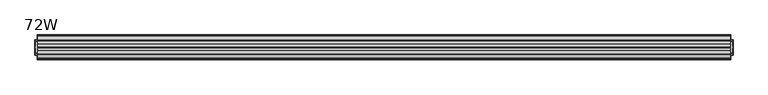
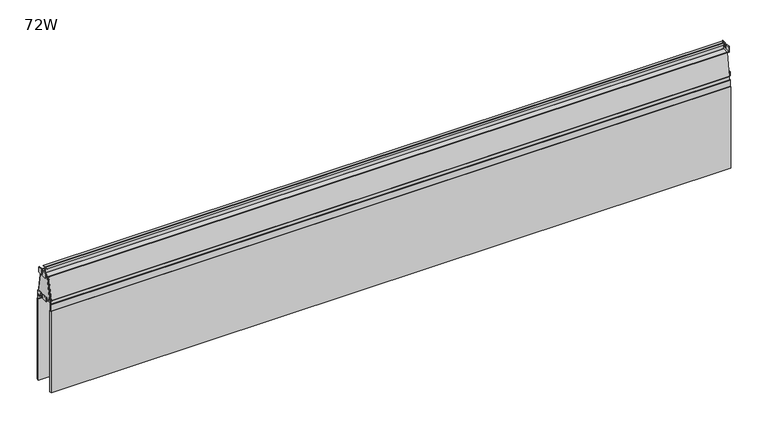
"""IFC4 building model written with IfcOpenShell, lengths in millimetres: furniture geometry, Steelcase Turnstone - Bivi - Accessories - High Sit Bracket with Modesty Panel : 72W."""

from ifc_helpers import new_model, si_unit, point, frame, frame_2d, origin, place, context, project, spatial, polyline, circle_curve, trimmed, segment, composite_curve, outline, extrude, source, transform, mapped, element, save
from ifc_brep_helpers import plane_surface, cylinder_surface, revolved_surface, advanced_brep


def furniture_72w_24902055(model_context):
    return source(origin(), model_context, "Body", "SolidModel", [
        extrude(outline(polyline([(1627.378, -62.4245382), (1631.7973142, -62.4245382), (1631.7973142, -102.4290731), (1627.378, -102.4290731), (1627.378, -62.4245382)])), frame((0.0, 0.0, 971.7621964), z_axis=(0.0, 0.0, 1.0), x_axis=(1.0, 0.0, 0.0)), (0.0, 0.0, 1.0), 2.2606178),
        extrude(outline(polyline([(1627.378, -67.9265279), (1631.7973142, -67.9265279), (1631.7973142, -96.8235489), (1627.378, -96.8235489), (1627.378, -67.9265279)])), frame((0.0, 0.0, 1033.6165755), z_axis=(0.0, 0.0, 1.0), x_axis=(1.0, 0.0, 0.0)), (0.0, 0.0, 1.0), 1.7477706),
        extrude(outline(composite_curve([segment(polyline([(-67.9265279, 1033.6165755), (-96.9270833, 1033.6165755), (-96.9270833, 1047.2712029)]), True, "CONTINUOUS"), segment(trimmed(circle_curve(frame_2d((-95.8530462, 1047.2712029)), 1.0740372), [point((-96.9270833, 1047.2712029))], [point((-95.8530462, 1048.3452401))], False, "CARTESIAN"), True, "CONTINUOUS"), segment(polyline([(-95.8530462, 1048.3452401), (-86.5848166, 1048.3452401)]), True, "CONTINUOUS"), segment(trimmed(circle_curve(frame_2d((-86.5848166, 1047.1882087)), 1.1570313), [point((-86.5848166, 1048.3452401))], [point((-85.4277852, 1047.1882087))], False, "CARTESIAN"), True, "CONTINUOUS"), segment(polyline([(-85.4277852, 1047.1882087), (-85.4277852, 1035.3644915), (-79.443513, 1035.3644915), (-79.443513, 1047.1627838)]), True, "CONTINUOUS"), segment(trimmed(circle_curve(frame_2d((-78.2610567, 1047.1627838)), 1.1824563), [point((-79.443513, 1047.1627838))], [point((-78.2610567, 1048.3452401))], False, "CARTESIAN"), True, "CONTINUOUS"), segment(polyline([(-78.2610567, 1048.3452401), (-68.8135699, 1048.3452401)]), True, "CONTINUOUS"), segment(trimmed(circle_curve(frame_2d((-68.8135699, 1047.4581981)), 0.887042), [point((-68.8135699, 1048.3452401))], [point((-67.9265279, 1047.4581981))], False, "CARTESIAN"), True, "CONTINUOUS"), segment(polyline([(-67.9265279, 1047.4581981), (-67.9265279, 1033.6165755)]), True, "CONTINUOUS")], self_intersect=False)), frame((1631.7973142, 0.0, 0.0), z_axis=(1.0, 0.0, 0.0), x_axis=(0.0, 1.0, 0.0)), (0.0, 0.0, 1.0), 1.4999084),
        extrude(outline(composite_curve([segment(polyline([(-76.0547241, 981.8412323), (-64.233104, 981.8412323)]), True, "CONTINUOUS"), segment(trimmed(circle_curve(frame_2d((-64.233104, 980.0326664)), 1.8085659), [point((-64.233104, 981.8412323))], [point((-62.4245382, 980.0326664))], False, "CARTESIAN"), True, "CONTINUOUS"), segment(polyline([(-62.4245382, 980.0326664), (-62.4245382, 971.7621964), (-82.4398102, 971.7621964), (-102.4290731, 971.7621964), (-102.4290731, 979.8046996)]), True, "CONTINUOUS"), segment(trimmed(circle_curve(frame_2d((-100.3925404, 979.8046996)), 2.0365327), [point((-102.4290731, 979.8046996))], [point((-100.3925404, 981.8412323))], False, "CARTESIAN"), True, "CONTINUOUS"), segment(polyline([(-100.3925404, 981.8412323), (-88.6513232, 981.8412323)]), True, "CONTINUOUS"), segment(trimmed(circle_curve(frame_2d((-88.6513232, 980.0617922)), 1.7794401), [point((-88.6513232, 981.8412323))], [point((-86.8718831, 980.0617922))], False, "CARTESIAN"), True, "CONTINUOUS"), segment(polyline([(-86.8718831, 980.0617922), (-86.8718831, 974.7655741), (-77.9817281, 974.7655741), (-77.9817281, 979.9142284)]), True, "CONTINUOUS"), segment(trimmed(circle_curve(frame_2d((-76.0547241, 979.9142284)), 1.9270039), [point((-77.9817281, 979.9142284))], [point((-76.0547241, 981.8412323))], False, "CARTESIAN"), True, "CONTINUOUS")], self_intersect=False)), frame((1631.7973142, 0.0, 0.0), z_axis=(1.0, 0.0, 0.0), x_axis=(0.0, 1.0, 0.0)), (0.0, 0.0, 1.0), 1.4999084),
        extrude(outline(polyline([(-150.622, -62.4245382), (-150.622, -102.4290731), (-155.0413142, -102.4290731), (-155.0413142, -62.4245382), (-150.622, -62.4245382)])), frame((0.0, 0.0, 971.7621964), z_axis=(0.0, 0.0, 1.0), x_axis=(1.0, 0.0, 0.0)), (0.0, 0.0, 1.0), 2.2606178),
        extrude(outline(polyline([(-150.622, -67.9265279), (-150.622, -96.8235489), (-155.0413142, -96.8235489), (-155.0413142, -67.9265279), (-150.622, -67.9265279)])), frame((0.0, 0.0, 1033.6165755), z_axis=(0.0, 0.0, 1.0), x_axis=(1.0, 0.0, 0.0)), (0.0, 0.0, 1.0), 1.7477706),
        extrude(outline(composite_curve([segment(polyline([(-67.9265279, 1033.6165755), (-96.9270833, 1033.6165755), (-96.9270833, 1047.2712029)]), True, "CONTINUOUS"), segment(trimmed(circle_curve(frame_2d((-95.8530462, 1047.2712029)), 1.0740372), [point((-96.9270833, 1047.2712029))], [point((-95.8530462, 1048.3452401))], False, "CARTESIAN"), True, "CONTINUOUS"), segment(polyline([(-95.8530462, 1048.3452401), (-86.5848166, 1048.3452401)]), True, "CONTINUOUS"), segment(trimmed(circle_curve(frame_2d((-86.5848166, 1047.1882087)), 1.1570313), [point((-86.5848166, 1048.3452401))], [point((-85.4277852, 1047.1882087))], False, "CARTESIAN"), True, "CONTINUOUS"), segment(polyline([(-85.4277852, 1047.1882087), (-85.4277852, 1035.3644915), (-79.443513, 1035.3644915), (-79.443513, 1047.1627838)]), True, "CONTINUOUS"), segment(trimmed(circle_curve(frame_2d((-78.2610567, 1047.1627838)), 1.1824563), [point((-79.443513, 1047.1627838))], [point((-78.2610567, 1048.3452401))], False, "CARTESIAN"), True, "CONTINUOUS"), segment(polyline([(-78.2610567, 1048.3452401), (-68.8135699, 1048.3452401)]), True, "CONTINUOUS"), segment(trimmed(circle_curve(frame_2d((-68.8135699, 1047.4581981)), 0.887042), [point((-68.8135699, 1048.3452401))], [point((-67.9265279, 1047.4581981))], False, "CARTESIAN"), True, "CONTINUOUS"), segment(polyline([(-67.9265279, 1047.4581981), (-67.9265279, 1033.6165755)]), True, "CONTINUOUS")], self_intersect=False)), frame((-156.5412227, 0.0, 0.0), z_axis=(1.0, 0.0, 0.0), x_axis=(0.0, 1.0, 0.0)), (0.0, 0.0, 1.0), 1.4999084),
        extrude(outline(composite_curve([segment(polyline([(-76.0547241, 981.8412323), (-64.233104, 981.8412323)]), True, "CONTINUOUS"), segment(trimmed(circle_curve(frame_2d((-64.233104, 980.0326664)), 1.8085659), [point((-64.233104, 981.8412323))], [point((-62.4245382, 980.0326664))], False, "CARTESIAN"), True, "CONTINUOUS"), segment(polyline([(-62.4245382, 980.0326664), (-62.4245382, 971.7621964), (-82.4398102, 971.7621964), (-102.4290731, 971.7621964), (-102.4290731, 979.8046996)]), True, "CONTINUOUS"), segment(trimmed(circle_curve(frame_2d((-100.3925404, 979.8046996)), 2.0365327), [point((-102.4290731, 979.8046996))], [point((-100.3925404, 981.8412323))], False, "CARTESIAN"), True, "CONTINUOUS"), segment(polyline([(-100.3925404, 981.8412323), (-88.6513232, 981.8412323)]), True, "CONTINUOUS"), segment(trimmed(circle_curve(frame_2d((-88.6513232, 980.0617922)), 1.7794401), [point((-88.6513232, 981.8412323))], [point((-86.8718831, 980.0617922))], False, "CARTESIAN"), True, "CONTINUOUS"), segment(polyline([(-86.8718831, 980.0617922), (-86.8718831, 974.7655741), (-77.9817281, 974.7655741), (-77.9817281, 979.9142284)]), True, "CONTINUOUS"), segment(trimmed(circle_curve(frame_2d((-76.0547241, 979.9142284)), 1.9270039), [point((-77.9817281, 979.9142284))], [point((-76.0547241, 981.8412323))], False, "CARTESIAN"), True, "CONTINUOUS")], self_intersect=False)), frame((-156.5412227, 0.0, 0.0), z_axis=(1.0, 0.0, 0.0), x_axis=(0.0, 1.0, 0.0)), (0.0, 0.0, 1.0), 1.4999084),
        extrude(outline(polyline([(-56.9970023, 971.7621964), (-107.8605404, 971.7621964), (-96.5348092, 1035.3644915), (-68.2124562, 1035.3644915), (-56.9970023, 971.7621964)])), frame((1625.7263308, 0.0, 0.0), z_axis=(1.0, 0.0, 0.0), x_axis=(0.0, 1.0, 0.0)), (0.0, 0.0, 1.0), 1.6516692),
        extrude(outline(polyline([(-56.9970023, 971.7621964), (-107.8605404, 971.7621964), (-96.5348351, 1035.3643461), (-68.2124305, 1035.3643461), (-56.9970023, 971.7621964)])), frame((-150.622, 0.0, 0.0), z_axis=(1.0, 0.0, 0.0), x_axis=(0.0, 1.0, 0.0)), (0.0, 0.0, 1.0), 1.6516692),
        advanced_brep(
        [(1625.7263308, -80.9976272, 1037.2195381), (1625.7263308, -81.5241475, 1037.7460584), (1625.7263308, -81.5241475, 1051.4672481), (1625.7263308, -81.0144007, 1051.9769949), (1625.7263308, -74.8842427, 1051.9769949), (1625.7263308, -74.8842427, 1052.8659668), (1625.7263308, -81.2494337, 1052.8659668), (1625.7263308, -82.4700881, 1051.6453124), (1625.7263308, -83.7221189, 1052.8659668), (1625.7263308, -90.0377005, 1052.8659668), (1625.7263308, -90.0377005, 1051.9769949), (1625.7263308, -83.9075425, 1051.9769949), (1625.7263308, -83.3977957, 1051.4672481), (1625.7263308, -83.3977957, 1037.7460584), (1625.7263308, -83.924316, 1037.2195381), (1625.7263308, -99.0759081, 1037.2195381), (1625.7263308, -100.326089, 1036.1705117), (1625.7263308, -110.7579884, 977.0082706), (1625.7263308, -109.096108, 975.5931057), (1625.7263308, -109.096108, 956.4729406), (1625.7263308, -107.5729451, 956.4729406), (1625.7263308, -107.5729451, 975.5229406), (1625.7263308, -57.2806661, 975.5229406), (1625.7263308, -57.2806661, 956.4729406), (1625.7263308, -55.7575032, 956.4729406), (1625.7263308, -55.7575032, 975.5715007), (1625.7263308, -54.1639548, 977.0082706), (1625.7263308, -64.5958542, 1036.1705117), (1625.7263308, -65.8460351, 1037.2195381), (1625.7263308, -66.0050637, 1036.3263319), (1625.7263308, -65.4476181, 1035.8585795), (1625.7263308, -55.0642662, 976.9716646), (1625.7263308, -55.5332832, 976.4127119), (1625.7263308, -109.38866, 976.4127119), (1625.7263308, -109.857677, 976.9716646), (1625.7263308, -99.4743251, 1035.8585795), (1625.7263308, -98.9168795, 1036.3263319), (1625.7263308, -83.6744208, 1036.3263319), (1625.7263308, -82.5014645, 1037.4992882), (1625.7263308, -81.2971318, 1036.3263319), (-148.9703308, -80.9976272, 1037.2195381), (-148.9703308, -65.8460351, 1037.2195381), (-148.9703308, -64.5958542, 1036.1705117), (-148.9703308, -54.1639548, 977.0082706), (-148.9703308, -55.7575032, 975.5715007), (-148.9703308, -55.7575032, 956.4729406), (-148.9703308, -57.2806661, 956.4729406), (-148.9703308, -57.2806661, 975.5229406), (-148.9703308, -107.5729451, 975.5229406), (-148.9703308, -107.5729451, 956.4729406), (-148.9703308, -109.096108, 956.4729406), (-148.9703308, -109.096108, 975.5931057), (-148.9703308, -110.7579884, 977.0082706), (-148.9703308, -100.326089, 1036.1705117), (-148.9703308, -99.0759081, 1037.2195381), (-148.9703308, -83.924316, 1037.2195381), (-148.9703308, -83.3977957, 1037.7460584), (-148.9703308, -83.3977957, 1051.4672481), (-148.9703308, -83.9075425, 1051.9769949), (-148.9703308, -90.0377005, 1051.9769949), (-148.9703308, -90.0377005, 1052.8659668), (-148.9703308, -83.7221189, 1052.8659668), (-148.9703308, -82.5014645, 1051.6453124), (-148.9703308, -81.2494337, 1052.8659668), (-148.9703308, -74.8842427, 1052.8659668), (-148.9703308, -74.8842427, 1051.9769949), (-148.9703308, -81.0144007, 1051.9769949), (-148.9703308, -81.5241475, 1051.4672481), (-148.9703308, -81.5241475, 1037.7460584), (-148.9703308, -66.0050637, 1036.3263319), (-148.9703308, -81.2971318, 1036.3263319), (-148.9703308, -82.4700881, 1037.4992882), (-148.9703308, -83.6744208, 1036.3263319), (-148.9703308, -98.9168795, 1036.3263319), (-148.9703308, -99.4743251, 1035.8585795), (-148.9703308, -109.857677, 976.9716646), (-148.9703308, -109.38866, 976.4127119), (-148.9703308, -55.5332832, 976.4127119), (-148.9703308, -55.0642662, 976.9716646), (-148.9703308, -65.4476181, 1035.8585795)],
        [
            (0, 1, circle_curve(frame((1625.7263308, -80.9976272, 1037.7460584), z_axis=(-1.0, 0.0, 0.0), x_axis=(0.0, 1.0, 0.0)), 0.5265203)),
            (1, 2),
            (2, 3, circle_curve(frame((1625.7263308, -81.0144007, 1051.4672481), z_axis=(-1.0, 0.0, 0.0), x_axis=(0.0, 1.0, 0.0)), 0.5097468)),
            (3, 4),
            (4, 5),
            (5, 6),
            (6, 7, circle_curve(frame((1625.7263308, -81.2494337, 1051.6453124), z_axis=(1.0, 0.0, 0.0), x_axis=(0.0, 1.0, 0.0)), 1.2206544)),
            (7, 8, circle_curve(frame((1625.7263308, -83.7221189, 1051.6453124), z_axis=(1.0, 0.0, 0.0), x_axis=(0.0, 1.0, 0.0)), 1.2206544)),
            (8, 9),
            (9, 10),
            (10, 11),
            (11, 12, circle_curve(frame((1625.7263308, -83.9075425, 1051.4672481), z_axis=(-1.0, 0.0, 0.0), x_axis=(0.0, 1.0, 0.0)), 0.5097468)),
            (12, 13),
            (13, 14, circle_curve(frame((1625.7263308, -83.924316, 1037.7460584), z_axis=(-1.0, 0.0, 0.0), x_axis=(0.0, 1.0, 0.0)), 0.5265203)),
            (14, 15),
            (15, 16, circle_curve(frame((1625.7263308, -99.0759081, 1035.9500711), z_axis=(1.0, 0.0, 0.0), x_axis=(0.0, 1.0, 0.0)), 1.269467)),
            (16, 17),
            (17, 18, circle_curve(frame((1625.7263308, -109.5116486, 976.7885072), z_axis=(1.0, 0.0, 0.0), x_axis=(0.0, 1.0, 0.0)), 1.2655666)),
            (18, 19),
            (19, 20),
            (20, 21),
            (21, 22),
            (22, 23),
            (23, 24),
            (24, 25),
            (25, 26, circle_curve(frame((1625.7263308, -55.4102946, 976.7885072), z_axis=(1.0, 0.0, 0.0), x_axis=(0.0, 1.0, 0.0)), 1.2655666)),
            (26, 27),
            (27, 28, circle_curve(frame((1625.7263308, -65.8460351, 1035.9500711), z_axis=(1.0, 0.0, 0.0), x_axis=(0.0, 1.0, 0.0)), 1.269467)),
            (28, 0),
            (29, 30, circle_curve(frame((1625.7263308, -66.0050637, 1035.7602868), z_axis=(-1.0, 0.0, 0.0), x_axis=(0.0, 1.0, 0.0)), 0.5660451)),
            (30, 31),
            (31, 32, circle_curve(frame((1625.7263308, -55.5332832, 976.8889643), z_axis=(-1.0, 0.0, 0.0), x_axis=(0.0, 1.0, 0.0)), 0.4762524)),
            (32, 33),
            (33, 34, circle_curve(frame((1625.7263308, -109.38866, 976.8889643), z_axis=(-1.0, 0.0, 0.0), x_axis=(0.0, 1.0, 0.0)), 0.4762524)),
            (34, 35),
            (35, 36, circle_curve(frame((1625.7263308, -98.9168795, 1035.7602868), z_axis=(-1.0, 0.0, 0.0), x_axis=(0.0, 1.0, 0.0)), 0.5660451)),
            (36, 37),
            (37, 38, circle_curve(frame((1625.7263308, -83.6744208, 1037.4992882), z_axis=(1.0, 0.0, 0.0), x_axis=(0.0, 1.0, 0.0)), 1.1729562)),
            (38, 39, circle_curve(frame((1625.7263308, -81.2971318, 1037.4992882), z_axis=(1.0, 0.0, 0.0), x_axis=(0.0, 1.0, 0.0)), 1.1729562)),
            (39, 29),
            (40, 41),
            (41, 42, circle_curve(frame((-148.9703308, -65.8460351, 1035.9500711), z_axis=(-1.0, 0.0, 0.0), x_axis=(0.0, 1.0, 0.0)), 1.269467)),
            (42, 43),
            (43, 44, circle_curve(frame((-148.9703308, -55.4102946, 976.7885072), z_axis=(-1.0, 0.0, 0.0), x_axis=(0.0, 1.0, 0.0)), 1.2655666)),
            (44, 45),
            (45, 46),
            (46, 47),
            (47, 48),
            (48, 49),
            (49, 50),
            (50, 51),
            (51, 52, circle_curve(frame((-148.9703308, -109.5116486, 976.7885072), z_axis=(-1.0, 0.0, 0.0), x_axis=(0.0, 1.0, 0.0)), 1.2655666)),
            (52, 53),
            (53, 54, circle_curve(frame((-148.9703308, -99.0759081, 1035.9500711), z_axis=(-1.0, 0.0, 0.0), x_axis=(0.0, 1.0, 0.0)), 1.269467)),
            (54, 55),
            (55, 56, circle_curve(frame((-148.9703308, -83.924316, 1037.7460584), z_axis=(1.0, 0.0, 0.0), x_axis=(0.0, 1.0, 0.0)), 0.5265203)),
            (56, 57),
            (57, 58, circle_curve(frame((-148.9703308, -83.9075425, 1051.4672481), z_axis=(1.0, 0.0, 0.0), x_axis=(0.0, 1.0, 0.0)), 0.5097468)),
            (58, 59),
            (59, 60),
            (60, 61),
            (61, 62, circle_curve(frame((-148.9703308, -83.7221189, 1051.6453124), z_axis=(-1.0, 0.0, 0.0), x_axis=(0.0, 1.0, 0.0)), 1.2206544)),
            (62, 63, circle_curve(frame((-148.9703308, -81.2494337, 1051.6453124), z_axis=(-1.0, 0.0, 0.0), x_axis=(0.0, 1.0, 0.0)), 1.2206544)),
            (63, 64),
            (64, 65),
            (65, 66),
            (66, 67, circle_curve(frame((-148.9703308, -81.0144007, 1051.4672481), z_axis=(1.0, 0.0, 0.0), x_axis=(0.0, 1.0, 0.0)), 0.5097468)),
            (67, 68),
            (68, 40, circle_curve(frame((-148.9703308, -80.9976272, 1037.7460584), z_axis=(1.0, 0.0, 0.0), x_axis=(0.0, 1.0, 0.0)), 0.5265203)),
            (69, 70),
            (70, 71, circle_curve(frame((-148.9703308, -81.2971318, 1037.4992882), z_axis=(-1.0, 0.0, 0.0), x_axis=(0.0, 1.0, 0.0)), 1.1729562)),
            (71, 72, circle_curve(frame((-148.9703308, -83.6744208, 1037.4992882), z_axis=(-1.0, 0.0, 0.0), x_axis=(0.0, 1.0, 0.0)), 1.1729562)),
            (72, 73),
            (73, 74, circle_curve(frame((-148.9703308, -98.9168795, 1035.7602868), z_axis=(1.0, 0.0, 0.0), x_axis=(0.0, 1.0, 0.0)), 0.5660451)),
            (74, 75),
            (75, 76, circle_curve(frame((-148.9703308, -109.38866, 976.8889643), z_axis=(1.0, 0.0, 0.0), x_axis=(0.0, 1.0, 0.0)), 0.4762524)),
            (76, 77),
            (77, 78, circle_curve(frame((-148.9703308, -55.5332832, 976.8889643), z_axis=(1.0, 0.0, 0.0), x_axis=(0.0, 1.0, 0.0)), 0.4762524)),
            (78, 79),
            (79, 69, circle_curve(frame((-148.9703308, -66.0050637, 1035.7602868), z_axis=(1.0, 0.0, 0.0), x_axis=(0.0, 1.0, 0.0)), 0.5660451)),
            (0, 40),
            (68, 1),
            (67, 2),
            (66, 3),
            (65, 4),
            (64, 5),
            (63, 6),
            (62, 7),
            (61, 8),
            (60, 9),
            (59, 10),
            (58, 11),
            (57, 12),
            (56, 13),
            (55, 14),
            (54, 15),
            (53, 16),
            (52, 17),
            (51, 18),
            (50, 19),
            (49, 20),
            (48, 21),
            (47, 22),
            (46, 23),
            (45, 24),
            (44, 25),
            (43, 26),
            (42, 27),
            (41, 28),
            (29, 69),
            (79, 30),
            (78, 31),
            (77, 32),
            (76, 33),
            (75, 34),
            (74, 35),
            (73, 36),
            (72, 37),
            (71, 38),
            (70, 39),
        ],
        [
            plane_surface(frame((1625.7263308, -80.4711069, 1037.7460584), z_axis=(1.0, 0.0, 0.0), x_axis=(0.0, 0.0, -1.0))),
            plane_surface(frame((-148.9703308, -80.4711069, 1037.7460584), z_axis=(-1.0, 0.0, 0.0), x_axis=(0.0, 0.0, 1.0))),
            revolved_surface(polyline([(-148.9703308, -80.4711069, 1037.7460584), (1625.7263308, -80.4711069, 1037.7460584)]), (-148.9703308, -80.9976272, 1037.7460584), (-1.0, 0.0, 0.0)),
            plane_surface(frame((1625.7263308, -81.5241475, 1037.7460584), z_axis=(0.0, 1.0, 0.0), x_axis=(-1.0, 0.0, 0.0))),
            revolved_surface(polyline([(-148.9703308, -80.5046539, 1051.4672481), (1625.7263308, -80.5046539, 1051.4672481)]), (-148.9703308, -81.0144007, 1051.4672481), (-1.0, 0.0, 0.0)),
            plane_surface(frame((1625.7263308, -81.0144007, 1051.9769949), z_axis=(0.0, 0.0, -1.0), x_axis=(-1.0, 0.0, 0.0))),
            plane_surface(frame((1625.7263308, -74.8842427, 1051.9769949), z_axis=(0.0, 1.0, 0.0), x_axis=(-1.0, 0.0, 0.0))),
            plane_surface(frame((1625.7263308, -74.8842427, 1052.8659668), z_axis=(0.0, 0.0, 1.0), x_axis=(-1.0, 0.0, 0.0))),
            cylinder_surface(frame((-148.9703308, -81.2494337, 1051.6453124), z_axis=(1.0, 0.0, 0.0), x_axis=(0.0, 1.0, 0.0)), 1.2206544),
            cylinder_surface(frame((-148.9703308, -83.7221189, 1051.6453124), z_axis=(1.0, 0.0, 0.0), x_axis=(0.0, 1.0, 0.0)), 1.2206544),
            plane_surface(frame((1625.7263308, -83.7221189, 1052.8659668), z_axis=(0.0, 0.0, 1.0), x_axis=(-1.0, 0.0, 0.0))),
            plane_surface(frame((1625.7263308, -90.0377005, 1052.8659668), z_axis=(0.0, -1.0, 0.0), x_axis=(-1.0, 0.0, 0.0))),
            plane_surface(frame((1625.7263308, -90.0377005, 1051.9769949), z_axis=(0.0, 0.0, -1.0), x_axis=(-1.0, 0.0, 0.0))),
            revolved_surface(polyline([(-148.9703308, -83.3977957, 1051.4672481), (1625.7263308, -83.3977957, 1051.4672481)]), (-148.9703308, -83.9075425, 1051.4672481), (-1.0, 0.0, 0.0)),
            plane_surface(frame((1625.7263308, -83.3977957, 1051.4672481), z_axis=(0.0, -1.0, 0.0), x_axis=(-1.0, 0.0, 0.0))),
            revolved_surface(polyline([(-148.9703308, -83.3977957, 1037.7460584), (1625.7263308, -83.3977957, 1037.7460584)]), (-148.9703308, -83.924316, 1037.7460584), (-1.0, 0.0, 0.0)),
            plane_surface(frame((1625.7263308, -83.924316, 1037.2195381), z_axis=(0.0, 0.0, 1.0), x_axis=(-1.0, 0.0, 0.0))),
            cylinder_surface(frame((-148.9703308, -99.0759081, 1035.9500711), z_axis=(1.0, 0.0, 0.0), x_axis=(0.0, 1.0, 0.0)), 1.269467),
            plane_surface(frame((1625.7263308, -100.326089, 1036.1705117), z_axis=(0.0, -0.9848077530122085, 0.17364817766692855), x_axis=(-1.0, 0.0, 0.0))),
            cylinder_surface(frame((-148.9703308, -109.5116486, 976.7885072), z_axis=(1.0, 0.0, 0.0), x_axis=(0.0, 1.0, 0.0)), 1.2655666),
            plane_surface(frame((1625.7263308, -109.096108, 975.5931057), z_axis=(0.0, -1.0, 0.0), x_axis=(-1.0, 0.0, 0.0))),
            plane_surface(frame((1625.7263308, -109.096108, 956.4729406), z_axis=(0.0, 0.0, -1.0), x_axis=(-1.0, 0.0, 0.0))),
            plane_surface(frame((1625.7263308, -107.5729451, 956.4729406), z_axis=(0.0, 1.0, 0.0), x_axis=(-1.0, 0.0, 0.0))),
            plane_surface(frame((1625.7263308, -107.5729451, 975.5229406), z_axis=(0.0, 0.0, -1.0), x_axis=(-1.0, 0.0, 0.0))),
            plane_surface(frame((1625.7263308, -57.2806661, 975.5229406), z_axis=(0.0, -1.0, 0.0), x_axis=(-1.0, 0.0, 0.0))),
            plane_surface(frame((1625.7263308, -57.2806661, 956.4729406), z_axis=(0.0, 0.0, -1.0), x_axis=(-1.0, 0.0, 0.0))),
            plane_surface(frame((1625.7263308, -55.7575032, 956.4729406), z_axis=(0.0, 1.0, 0.0), x_axis=(-1.0, 0.0, 0.0))),
            cylinder_surface(frame((-148.9703308, -55.4102946, 976.7885072), z_axis=(1.0, 0.0, 0.0), x_axis=(0.0, 1.0, 0.0)), 1.2655666),
            plane_surface(frame((1625.7263308, -54.1639548, 977.0082706), z_axis=(0.0, 0.9848077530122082, 0.17364817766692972), x_axis=(-1.0, 0.0, 0.0))),
            cylinder_surface(frame((-148.9703308, -65.8460351, 1035.9500711), z_axis=(1.0, 0.0, 0.0), x_axis=(0.0, 1.0, 0.0)), 1.269467),
            plane_surface(frame((1625.7263308, -65.8460351, 1037.2195381), z_axis=(0.0, 0.0, 1.0), x_axis=(-1.0, 0.0, 0.0))),
            revolved_surface(polyline([(-148.9703308, -65.4390186, 1035.7602868), (1625.7263308, -65.4390186, 1035.7602868)]), (-150.622, -66.0050637, 1035.7602868), (-1.0, 0.0, 0.0)),
            plane_surface(frame((1625.7263308, -65.4476181, 1035.8585795), z_axis=(0.0, -0.9848077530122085, -0.17364817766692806), x_axis=(-1.0, 0.0, 0.0))),
            revolved_surface(polyline([(-148.9703308, -55.0570308, 976.8889643), (1625.7263308, -55.0570308, 976.8889643)]), (-150.622, -55.5332832, 976.8889643), (-1.0, 0.0, 0.0)),
            plane_surface(frame((1625.7263308, -55.5332832, 976.4127119), z_axis=(0.0, 0.0, 1.0), x_axis=(-1.0, 0.0, 0.0))),
            revolved_surface(polyline([(-148.9703308, -108.9124076, 976.8889643), (1625.7263308, -108.9124076, 976.8889643)]), (-150.622, -109.38866, 976.8889643), (-1.0, 0.0, 0.0)),
            plane_surface(frame((1625.7263308, -109.857677, 976.9716646), z_axis=(0.0, 0.9848077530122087, -0.17364817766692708), x_axis=(-1.0, 0.0, 0.0))),
            revolved_surface(polyline([(-148.9703308, -98.3508344, 1035.7602868), (1625.7263308, -98.3508344, 1035.7602868)]), (-150.622, -98.9168795, 1035.7602868), (-1.0, 0.0, 0.0)),
            plane_surface(frame((1625.7263308, -98.9168795, 1036.3263319), z_axis=(0.0, 0.0, -1.0), x_axis=(-1.0, 0.0, 0.0))),
            cylinder_surface(frame((-150.622, -83.6744208, 1037.4992882), z_axis=(1.0, 0.0, 0.0), x_axis=(0.0, 1.0, 0.0)), 1.1729562),
            cylinder_surface(frame((-150.622, -81.2971318, 1037.4992882), z_axis=(1.0, 0.0, 0.0), x_axis=(0.0, 1.0, 0.0)), 1.1729562),
            plane_surface(frame((1625.7263308, -81.2971318, 1036.3263319), z_axis=(0.0, 0.0, -1.0), x_axis=(-1.0, 0.0, 0.0))),
        ],
        [
            (0, [[1, 2, 3, 4, 5, 6, 7, 8, 9, 10, 11, 12, 13, 14, 15, 16, 17, 18, 19, 20, 21, 22, 23, 24, 25, 26, 27, 28, 29], [30, 31, 32, 33, 34, 35, 36, 37, 38, 39, 40]]),
            (1, [[41, 42, 43, 44, 45, 46, 47, 48, 49, 50, 51, 52, 53, 54, 55, 56, 57, 58, 59, 60, 61, 62, 63, 64, 65, 66, 67, 68, 69], [70, 71, 72, 73, 74, 75, 76, 77, 78, 79, 80]]),
            (2, [[-1, 81, -69, 82]]),
            (3, [[-2, -82, -68, 83]]),
            (4, [[-3, -83, -67, 84]]),
            (5, [[-4, -84, -66, 85]]),
            (6, [[-5, -85, -65, 86]]),
            (7, [[-6, -86, -64, 87]]),
            (8, [[-7, -87, -63, 88]]),
            (9, [[-8, -88, -62, 89]]),
            (10, [[-9, -89, -61, 90]]),
            (11, [[-10, -90, -60, 91]]),
            (12, [[-11, -91, -59, 92]]),
            (13, [[-12, -92, -58, 93]]),
            (14, [[-13, -93, -57, 94]]),
            (15, [[-14, -94, -56, 95]]),
            (16, [[-15, -95, -55, 96]]),
            (17, [[-16, -96, -54, 97]]),
            (18, [[-17, -97, -53, 98]]),
            (19, [[-18, -98, -52, 99]]),
            (20, [[-19, -99, -51, 100]]),
            (21, [[-20, -100, -50, 101]]),
            (22, [[-21, -101, -49, 102]]),
            (23, [[-22, -102, -48, 103]]),
            (24, [[-23, -103, -47, 104]]),
            (25, [[-24, -104, -46, 105]]),
            (26, [[-25, -105, -45, 106]]),
            (27, [[-26, -106, -44, 107]]),
            (28, [[-27, -107, -43, 108]]),
            (29, [[-28, -108, -42, 109]]),
            (30, [[-29, -109, -41, -81]]),
            (31, [[-30, 110, -80, 111]]),
            (32, [[-31, -111, -79, 112]]),
            (33, [[-32, -112, -78, 113]]),
            (34, [[-33, -113, -77, 114]]),
            (35, [[-34, -114, -76, 115]]),
            (36, [[-35, -115, -75, 116]]),
            (37, [[-36, -116, -74, 117]]),
            (38, [[-37, -117, -73, 118]]),
            (39, [[-38, -118, -72, 119]]),
            (40, [[-39, -119, -71, 120]]),
            (41, [[-40, -120, -70, -110]]),
        ],
    ),
        extrude(outline(polyline([(-54.1343465, 967.1858042), (-52.6693197, 967.1858042), (-52.6693197, 949.6150017), (-50.6089803, 949.6150017), (-50.6089803, 724.5711073), (-56.1923604, 724.5711073), (-56.1923604, 949.6150017), (-54.1343465, 949.6150017), (-54.1343465, 967.1858042)])), frame((-150.622, 0.0, 0.0), z_axis=(1.0, 0.0, 0.0), x_axis=(0.0, 1.0, 0.0)), (0.0, 0.0, 1.0), 1778.0),
        extrude(outline(polyline([(-110.7215902, 967.1858042), (-110.7215902, 949.6150017), (-108.6635762, 949.6150017), (-108.6635762, 724.5711073), (-114.2469564, 724.5711073), (-114.2469564, 949.6150017), (-112.186617, 949.6150017), (-112.186617, 967.1858042), (-110.7215902, 967.1858042)])), frame((-150.622, 0.0, 0.0), z_axis=(1.0, 0.0, 0.0), x_axis=(0.0, 1.0, 0.0)), (0.0, 0.0, 1.0), 1778.0),
    ])


if __name__ == "__main__":
    model = new_model("IFC4")
    model_context = context("Model", 3, world=origin())
    ifc_project = project(units=[si_unit("LENGTHUNIT", "METRE", prefix="MILLI")], contexts=[model_context])
    site = spatial("IfcSite", under=ifc_project)
    building = spatial("IfcBuilding", under=site)
    placement = place(None, origin())
    furniture_72w_shape = furniture_72w_24902055(model_context)
    element("IfcFurniture", 1, ObjectType="Steelcase Turnstone - Bivi - Accessories - High Sit Bracket with Modesty Panel : 72W", at=placement, inside=building, context=model_context, shape_type="MappedRepresentation", body=[
        mapped(furniture_72w_shape, transform((0.0, 0.0, 0.0), x_axis=(1.0, 0.0, 0.0), y_axis=(0.0, 1.0, 0.0), z_axis=(0.0, 0.0, 1.0))),
    ])
    save(model, "model.ifc")
